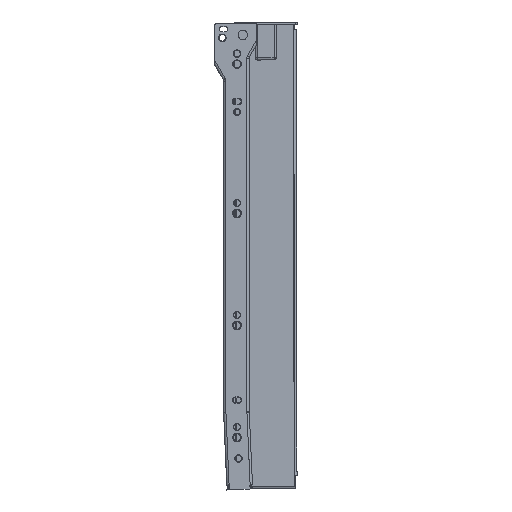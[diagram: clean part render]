
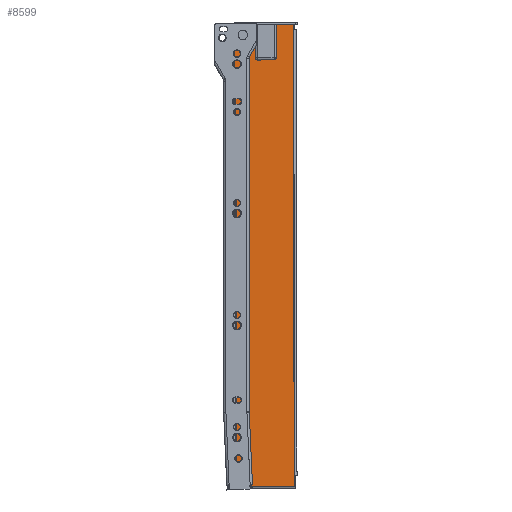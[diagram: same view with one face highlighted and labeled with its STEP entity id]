
A CAD part, left-side view. The second image highlights one B-rep face of the part: STEP entity #8599.
In plain terms, the highlighted planar face has unit normal (-1, 0, 0) as drawn and (0, 0, -1) by its records, which use the part's own axes.
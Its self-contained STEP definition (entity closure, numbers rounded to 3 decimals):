
#704=LINE('',#13847,#1398);
#708=LINE('',#13865,#1402);
#709=LINE('',#13867,#1403);
#710=LINE('',#13869,#1404);
#711=LINE('',#13871,#1405);
#712=LINE('',#13873,#1406);
#713=LINE('',#13877,#1407);
#714=LINE('',#13880,#1408);
#1398=VECTOR('',#11221,53.928);
#1402=VECTOR('',#11231,396.2);
#1403=VECTOR('',#11232,52.034);
#1404=VECTOR('',#11233,55.801);
#1405=VECTOR('',#11234,319.152);
#1406=VECTOR('',#11235,1.6);
#1407=VECTOR('',#11238,1.3);
#1408=VECTOR('',#11241,15.5);
#1809=PLANE('',#9360);
#2040=FACE_BOUND('',#2977,.T.);
#2379=FACE_OUTER_BOUND('',#2976,.T.);
#2976=EDGE_LOOP('',(#6842,#6843,#6844,#6845,#6846,#6847,#6848,#6849,#6850,
#6851,#6852));
#2977=EDGE_LOOP('',(#6853));
#3480=CIRCLE('',#9359,2.);
#3481=CIRCLE('',#9361,1.2);
#3482=CIRCLE('',#9362,2.);
#3483=CIRCLE('',#9363,3.5);
#4092=VERTEX_POINT('',#13841);
#4093=VERTEX_POINT('',#13846);
#4095=VERTEX_POINT('',#13859);
#4096=VERTEX_POINT('',#13864);
#4097=VERTEX_POINT('',#13866);
#4098=VERTEX_POINT('',#13868);
#4099=VERTEX_POINT('',#13870);
#4100=VERTEX_POINT('',#13872);
#4101=VERTEX_POINT('',#13874);
#4102=VERTEX_POINT('',#13876);
#4103=VERTEX_POINT('',#13878);
#4104=VERTEX_POINT('',#13881);
#5070=EDGE_CURVE('',#4092,#4093,#704,.T.);
#5073=EDGE_CURVE('',#4093,#4095,#3480,.T.);
#5076=EDGE_CURVE('',#4096,#4092,#708,.T.);
#5077=EDGE_CURVE('',#4096,#4097,#709,.T.);
#5078=EDGE_CURVE('',#4098,#4097,#710,.T.);
#5079=EDGE_CURVE('',#4099,#4098,#711,.T.);
#5080=EDGE_CURVE('',#4099,#4100,#712,.T.);
#5081=EDGE_CURVE('',#4101,#4100,#3481,.T.);
#5082=EDGE_CURVE('',#4102,#4101,#713,.T.);
#5083=EDGE_CURVE('',#4103,#4102,#3482,.T.);
#5084=EDGE_CURVE('',#4095,#4103,#714,.T.);
#5085=EDGE_CURVE('',#4104,#4104,#3483,.T.);
#6842=ORIENTED_EDGE('',*,*,#5070,.F.);
#6843=ORIENTED_EDGE('',*,*,#5076,.F.);
#6844=ORIENTED_EDGE('',*,*,#5077,.T.);
#6845=ORIENTED_EDGE('',*,*,#5078,.F.);
#6846=ORIENTED_EDGE('',*,*,#5079,.F.);
#6847=ORIENTED_EDGE('',*,*,#5080,.T.);
#6848=ORIENTED_EDGE('',*,*,#5081,.F.);
#6849=ORIENTED_EDGE('',*,*,#5082,.F.);
#6850=ORIENTED_EDGE('',*,*,#5083,.F.);
#6851=ORIENTED_EDGE('',*,*,#5084,.F.);
#6852=ORIENTED_EDGE('',*,*,#5073,.F.);
#6853=ORIENTED_EDGE('',*,*,#5085,.T.);
#8599=ADVANCED_FACE('',(#2379,#2040),#1809,.F.);
#9359=AXIS2_PLACEMENT_3D('',#13860,#11225,#11226);
#9360=AXIS2_PLACEMENT_3D('',#13863,#11229,#11230);
#9361=AXIS2_PLACEMENT_3D('',#13875,#11236,#11237);
#9362=AXIS2_PLACEMENT_3D('',#13879,#11239,#11240);
#9363=AXIS2_PLACEMENT_3D('',#13882,#11242,#11243);
#11221=DIRECTION('',(0.,1.,0.));
#11225=DIRECTION('center_axis',(0.,0.,1.));
#11226=DIRECTION('ref_axis',(1.,0.,0.));
#11229=DIRECTION('center_axis',(0.,0.,1.));
#11230=DIRECTION('ref_axis',(1.,0.,0.));
#11231=DIRECTION('',(1.,0.,0.));
#11232=DIRECTION('',(0.,1.,0.));
#11233=DIRECTION('',(-0.999,0.044,0.));
#11234=DIRECTION('',(-1.,0.,0.));
#11235=DIRECTION('',(0.,1.,0.));
#11236=DIRECTION('center_axis',(0.,0.,-1.));
#11237=DIRECTION('ref_axis',(1.,0.,0.));
#11238=DIRECTION('',(0.,-1.,0.));
#11239=DIRECTION('center_axis',(0.,0.,1.));
#11240=DIRECTION('ref_axis',(0.,1.,0.));
#11241=DIRECTION('',(-1.,0.,0.));
#11242=DIRECTION('center_axis',(0.,0.,1.));
#11243=DIRECTION('ref_axis',(-1.,0.,0.));
#13841=CARTESIAN_POINT('',(9.4,-47.,0.));
#13846=CARTESIAN_POINT('',(9.4,6.928,0.));
#13847=CARTESIAN_POINT('',(9.4,-9.989,0.));
#13859=CARTESIAN_POINT('',(8.,7.5,0.));
#13860=CARTESIAN_POINT('Origin',(8.,5.5,0.));
#13863=CARTESIAN_POINT('Origin',(-189.82,-21.679,0.));
#13864=CARTESIAN_POINT('',(-386.8,-47.,0.));
#13865=CARTESIAN_POINT('',(-289.91,-47.,0.));
#13866=CARTESIAN_POINT('',(-386.8,5.034,0.));
#13867=CARTESIAN_POINT('',(-386.8,-7.051,0.));
#13868=CARTESIAN_POINT('',(-331.052,2.6,0.));
#13869=CARTESIAN_POINT('',(-260.055,-0.5,0.));
#13870=CARTESIAN_POINT('',(-11.9,2.6,0.));
#13871=CARTESIAN_POINT('',(-100.86,2.6,0.));
#13872=CARTESIAN_POINT('',(-11.9,4.2,0.));
#13873=CARTESIAN_POINT('',(-11.9,-8.739,0.));
#13874=CARTESIAN_POINT('',(-9.5,4.2,0.));
#13875=CARTESIAN_POINT('Origin',(-10.7,4.2,0.));
#13876=CARTESIAN_POINT('',(-9.5,5.5,0.));
#13877=CARTESIAN_POINT('',(-9.5,5.5,0.));
#13878=CARTESIAN_POINT('',(-7.5,7.5,0.));
#13879=CARTESIAN_POINT('Origin',(-7.5,5.5,0.));
#13880=CARTESIAN_POINT('',(8.,7.5,0.));
#13881=CARTESIAN_POINT('',(3.5,0.,0.));
#13882=CARTESIAN_POINT('Origin',(0.,0.,0.));
